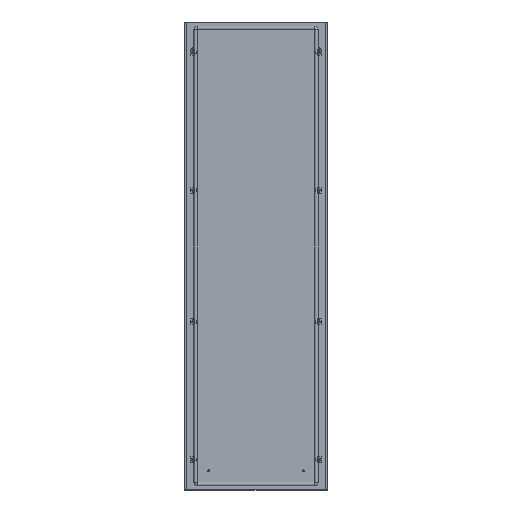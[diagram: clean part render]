
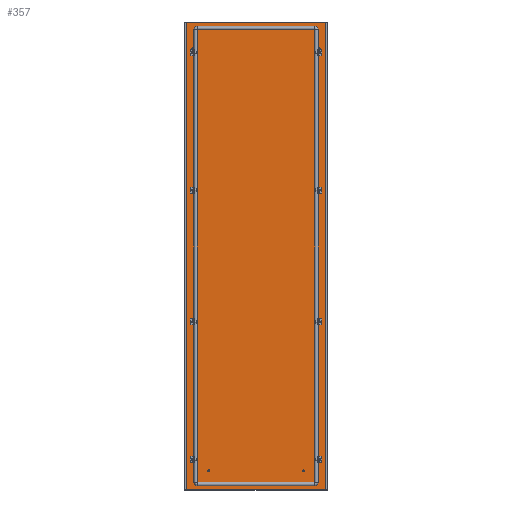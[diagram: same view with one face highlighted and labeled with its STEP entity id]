
A CAD part, top view. The second image highlights one B-rep face of the part: STEP entity #357.
In plain terms, the highlighted planar face has unit normal (0, 0, 1).
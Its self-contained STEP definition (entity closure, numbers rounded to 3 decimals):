
#357 = ADVANCED_FACE('',(#358,#456,#467,#478,#498,#518,#529,#540,#560),
  #580,.F.);
#358 = FACE_BOUND('',#359,.T.);
#359 = EDGE_LOOP('',(#360,#370,#378,#386,#394,#402,#410,#418,#426,#434,
    #442,#450));
#360 = ORIENTED_EDGE('',*,*,#361,.F.);
#361 = EDGE_CURVE('',#362,#364,#366,.T.);
#362 = VERTEX_POINT('',#363);
#363 = CARTESIAN_POINT('',(-295.5,977.5,0.));
#364 = VERTEX_POINT('',#365);
#365 = CARTESIAN_POINT('',(-295.3,977.5,0.));
#366 = LINE('',#367,#368);
#367 = CARTESIAN_POINT('',(0.,977.5,0.)
  );
#368 = VECTOR('',#369,1.);
#369 = DIRECTION('',(1.,0.,0.));
#370 = ORIENTED_EDGE('',*,*,#371,.T.);
#371 = EDGE_CURVE('',#362,#372,#374,.T.);
#372 = VERTEX_POINT('',#373);
#373 = CARTESIAN_POINT('',(-295.5,-977.5,0.));
#374 = LINE('',#375,#376);
#375 = CARTESIAN_POINT('',(-295.5,0.,0.));
#376 = VECTOR('',#377,1.);
#377 = DIRECTION('',(0.,-1.,-0.));
#378 = ORIENTED_EDGE('',*,*,#379,.T.);
#379 = EDGE_CURVE('',#372,#380,#382,.T.);
#380 = VERTEX_POINT('',#381);
#381 = CARTESIAN_POINT('',(-295.3,-977.5,0.));
#382 = LINE('',#383,#384);
#383 = CARTESIAN_POINT('',(0.,-977.5,0.)
  );
#384 = VECTOR('',#385,1.);
#385 = DIRECTION('',(1.,-0.,-0.));
#386 = ORIENTED_EDGE('',*,*,#387,.F.);
#387 = EDGE_CURVE('',#388,#380,#390,.T.);
#388 = VERTEX_POINT('',#389);
#389 = CARTESIAN_POINT('',(-295.3,-976.,0.));
#390 = LINE('',#391,#392);
#391 = CARTESIAN_POINT('',(-295.3,0.,0.)
  );
#392 = VECTOR('',#393,1.);
#393 = DIRECTION('',(0.,-1.,0.));
#394 = ORIENTED_EDGE('',*,*,#395,.T.);
#395 = EDGE_CURVE('',#388,#396,#398,.T.);
#396 = VERTEX_POINT('',#397);
#397 = CARTESIAN_POINT('',(295.3,-976.,0.));
#398 = LINE('',#399,#400);
#399 = CARTESIAN_POINT('',(0.,-976.,0.)
  );
#400 = VECTOR('',#401,1.);
#401 = DIRECTION('',(1.,-0.,-0.));
#402 = ORIENTED_EDGE('',*,*,#403,.T.);
#403 = EDGE_CURVE('',#396,#404,#406,.T.);
#404 = VERTEX_POINT('',#405);
#405 = CARTESIAN_POINT('',(295.3,-977.5,0.));
#406 = LINE('',#407,#408);
#407 = CARTESIAN_POINT('',(295.3,-976.,0.));
#408 = VECTOR('',#409,1.);
#409 = DIRECTION('',(0.,-1.,-0.));
#410 = ORIENTED_EDGE('',*,*,#411,.F.);
#411 = EDGE_CURVE('',#412,#404,#414,.T.);
#412 = VERTEX_POINT('',#413);
#413 = CARTESIAN_POINT('',(295.5,-977.5,0.));
#414 = LINE('',#415,#416);
#415 = CARTESIAN_POINT('',(0.,-977.5,0.
    ));
#416 = VECTOR('',#417,1.);
#417 = DIRECTION('',(-1.,0.,0.));
#418 = ORIENTED_EDGE('',*,*,#419,.T.);
#419 = EDGE_CURVE('',#412,#420,#422,.T.);
#420 = VERTEX_POINT('',#421);
#421 = CARTESIAN_POINT('',(295.5,977.5,0.));
#422 = LINE('',#423,#424);
#423 = CARTESIAN_POINT('',(295.5,0.,0.));
#424 = VECTOR('',#425,1.);
#425 = DIRECTION('',(-0.,1.,-0.));
#426 = ORIENTED_EDGE('',*,*,#427,.T.);
#427 = EDGE_CURVE('',#420,#428,#430,.T.);
#428 = VERTEX_POINT('',#429);
#429 = CARTESIAN_POINT('',(295.3,977.5,0.));
#430 = LINE('',#431,#432);
#431 = CARTESIAN_POINT('',(0.,977.5,0.
    ));
#432 = VECTOR('',#433,1.);
#433 = DIRECTION('',(-1.,-0.,-0.));
#434 = ORIENTED_EDGE('',*,*,#435,.F.);
#435 = EDGE_CURVE('',#436,#428,#438,.T.);
#436 = VERTEX_POINT('',#437);
#437 = CARTESIAN_POINT('',(295.3,976.,0.));
#438 = LINE('',#439,#440);
#439 = CARTESIAN_POINT('',(295.3,0.,
    0.));
#440 = VECTOR('',#441,1.);
#441 = DIRECTION('',(0.,1.,0.));
#442 = ORIENTED_EDGE('',*,*,#443,.T.);
#443 = EDGE_CURVE('',#436,#444,#446,.T.);
#444 = VERTEX_POINT('',#445);
#445 = CARTESIAN_POINT('',(-295.3,976.,0.));
#446 = LINE('',#447,#448);
#447 = CARTESIAN_POINT('',(0.,976.,0.)
  );
#448 = VECTOR('',#449,1.);
#449 = DIRECTION('',(-1.,-0.,-0.));
#450 = ORIENTED_EDGE('',*,*,#451,.T.);
#451 = EDGE_CURVE('',#444,#364,#452,.T.);
#452 = LINE('',#453,#454);
#453 = CARTESIAN_POINT('',(-295.3,976.,0.));
#454 = VECTOR('',#455,1.);
#455 = DIRECTION('',(0.,1.,-0.));
#456 = FACE_BOUND('',#457,.T.);
#457 = EDGE_LOOP('',(#458));
#458 = ORIENTED_EDGE('',*,*,#459,.T.);
#459 = EDGE_CURVE('',#460,#460,#462,.T.);
#460 = VERTEX_POINT('',#461);
#461 = CARTESIAN_POINT('',(-264.5,-270.25,0.));
#462 = CIRCLE('',#463,4.75);
#463 = AXIS2_PLACEMENT_3D('',#464,#465,#466);
#464 = CARTESIAN_POINT('',(-264.5,-275.,0.));
#465 = DIRECTION('',(0.,0.,-1.));
#466 = DIRECTION('',(0.,1.,0.));
#467 = FACE_BOUND('',#468,.T.);
#468 = EDGE_LOOP('',(#469));
#469 = ORIENTED_EDGE('',*,*,#470,.T.);
#470 = EDGE_CURVE('',#471,#471,#473,.T.);
#471 = VERTEX_POINT('',#472);
#472 = CARTESIAN_POINT('',(264.5,-279.75,0.));
#473 = CIRCLE('',#474,4.75);
#474 = AXIS2_PLACEMENT_3D('',#475,#476,#477);
#475 = CARTESIAN_POINT('',(264.5,-275.,0.));
#476 = DIRECTION('',(-0.,0.,-1.));
#477 = DIRECTION('',(0.,-1.,0.));
#478 = FACE_BOUND('',#479,.T.);
#479 = EDGE_LOOP('',(#480,#491));
#480 = ORIENTED_EDGE('',*,*,#481,.F.);
#481 = EDGE_CURVE('',#482,#484,#486,.T.);
#482 = VERTEX_POINT('',#483);
#483 = CARTESIAN_POINT('',(-264.5,854.75,0.));
#484 = VERTEX_POINT('',#485);
#485 = CARTESIAN_POINT('',(-264.5,845.25,0.));
#486 = CIRCLE('',#487,4.75);
#487 = AXIS2_PLACEMENT_3D('',#488,#489,#490);
#488 = CARTESIAN_POINT('',(-264.5,850.,0.));
#489 = DIRECTION('',(0.,0.,1.));
#490 = DIRECTION('',(0.,1.,0.));
#491 = ORIENTED_EDGE('',*,*,#492,.F.);
#492 = EDGE_CURVE('',#484,#482,#493,.T.);
#493 = CIRCLE('',#494,4.75);
#494 = AXIS2_PLACEMENT_3D('',#495,#496,#497);
#495 = CARTESIAN_POINT('',(-264.5,850.,0.));
#496 = DIRECTION('',(0.,0.,1.));
#497 = DIRECTION('',(0.,1.,0.));
#498 = FACE_BOUND('',#499,.T.);
#499 = EDGE_LOOP('',(#500,#511));
#500 = ORIENTED_EDGE('',*,*,#501,.F.);
#501 = EDGE_CURVE('',#502,#504,#506,.T.);
#502 = VERTEX_POINT('',#503);
#503 = CARTESIAN_POINT('',(264.5,845.25,0.));
#504 = VERTEX_POINT('',#505);
#505 = CARTESIAN_POINT('',(264.5,854.75,0.));
#506 = CIRCLE('',#507,4.75);
#507 = AXIS2_PLACEMENT_3D('',#508,#509,#510);
#508 = CARTESIAN_POINT('',(264.5,850.,0.));
#509 = DIRECTION('',(0.,0.,1.));
#510 = DIRECTION('',(0.,-1.,0.));
#511 = ORIENTED_EDGE('',*,*,#512,.F.);
#512 = EDGE_CURVE('',#504,#502,#513,.T.);
#513 = CIRCLE('',#514,4.75);
#514 = AXIS2_PLACEMENT_3D('',#515,#516,#517);
#515 = CARTESIAN_POINT('',(264.5,850.,0.));
#516 = DIRECTION('',(0.,0.,1.));
#517 = DIRECTION('',(0.,-1.,0.));
#518 = FACE_BOUND('',#519,.T.);
#519 = EDGE_LOOP('',(#520));
#520 = ORIENTED_EDGE('',*,*,#521,.T.);
#521 = EDGE_CURVE('',#522,#522,#524,.T.);
#522 = VERTEX_POINT('',#523);
#523 = CARTESIAN_POINT('',(-264.5,-845.25,0.));
#524 = CIRCLE('',#525,4.75);
#525 = AXIS2_PLACEMENT_3D('',#526,#527,#528);
#526 = CARTESIAN_POINT('',(-264.5,-850.,0.));
#527 = DIRECTION('',(0.,0.,-1.));
#528 = DIRECTION('',(0.,1.,0.));
#529 = FACE_BOUND('',#530,.T.);
#530 = EDGE_LOOP('',(#531));
#531 = ORIENTED_EDGE('',*,*,#532,.T.);
#532 = EDGE_CURVE('',#533,#533,#535,.T.);
#533 = VERTEX_POINT('',#534);
#534 = CARTESIAN_POINT('',(264.5,-854.75,0.));
#535 = CIRCLE('',#536,4.75);
#536 = AXIS2_PLACEMENT_3D('',#537,#538,#539);
#537 = CARTESIAN_POINT('',(264.5,-850.,0.));
#538 = DIRECTION('',(-0.,0.,-1.));
#539 = DIRECTION('',(0.,-1.,0.));
#540 = FACE_BOUND('',#541,.T.);
#541 = EDGE_LOOP('',(#542,#553));
#542 = ORIENTED_EDGE('',*,*,#543,.F.);
#543 = EDGE_CURVE('',#544,#546,#548,.T.);
#544 = VERTEX_POINT('',#545);
#545 = CARTESIAN_POINT('',(264.5,270.25,0.));
#546 = VERTEX_POINT('',#547);
#547 = CARTESIAN_POINT('',(264.5,279.75,0.));
#548 = CIRCLE('',#549,4.75);
#549 = AXIS2_PLACEMENT_3D('',#550,#551,#552);
#550 = CARTESIAN_POINT('',(264.5,275.,0.));
#551 = DIRECTION('',(0.,0.,1.));
#552 = DIRECTION('',(0.,-1.,0.));
#553 = ORIENTED_EDGE('',*,*,#554,.F.);
#554 = EDGE_CURVE('',#546,#544,#555,.T.);
#555 = CIRCLE('',#556,4.75);
#556 = AXIS2_PLACEMENT_3D('',#557,#558,#559);
#557 = CARTESIAN_POINT('',(264.5,275.,0.));
#558 = DIRECTION('',(0.,0.,1.));
#559 = DIRECTION('',(0.,-1.,0.));
#560 = FACE_BOUND('',#561,.T.);
#561 = EDGE_LOOP('',(#562,#573));
#562 = ORIENTED_EDGE('',*,*,#563,.F.);
#563 = EDGE_CURVE('',#564,#566,#568,.T.);
#564 = VERTEX_POINT('',#565);
#565 = CARTESIAN_POINT('',(-264.5,279.75,0.));
#566 = VERTEX_POINT('',#567);
#567 = CARTESIAN_POINT('',(-264.5,270.25,0.));
#568 = CIRCLE('',#569,4.75);
#569 = AXIS2_PLACEMENT_3D('',#570,#571,#572);
#570 = CARTESIAN_POINT('',(-264.5,275.,0.));
#571 = DIRECTION('',(0.,0.,1.));
#572 = DIRECTION('',(0.,1.,0.));
#573 = ORIENTED_EDGE('',*,*,#574,.F.);
#574 = EDGE_CURVE('',#566,#564,#575,.T.);
#575 = CIRCLE('',#576,4.75);
#576 = AXIS2_PLACEMENT_3D('',#577,#578,#579);
#577 = CARTESIAN_POINT('',(-264.5,275.,0.));
#578 = DIRECTION('',(0.,0.,1.));
#579 = DIRECTION('',(0.,1.,0.));
#580 = PLANE('',#581);
#581 = AXIS2_PLACEMENT_3D('',#582,#583,#584);
#582 = CARTESIAN_POINT('',(0.,0.,0.));
#583 = DIRECTION('',(0.,0.,-1.));
#584 = DIRECTION('',(-1.,0.,0.));
